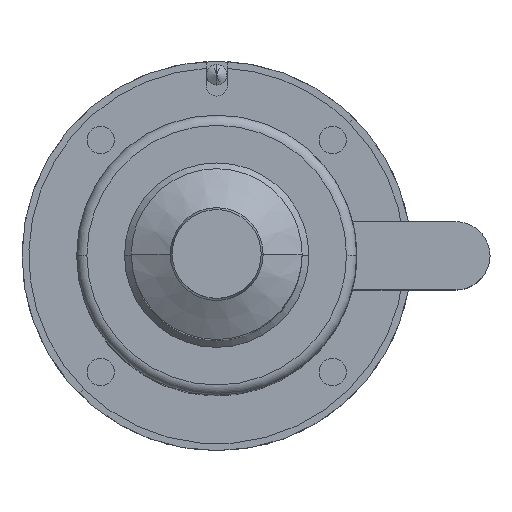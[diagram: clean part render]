
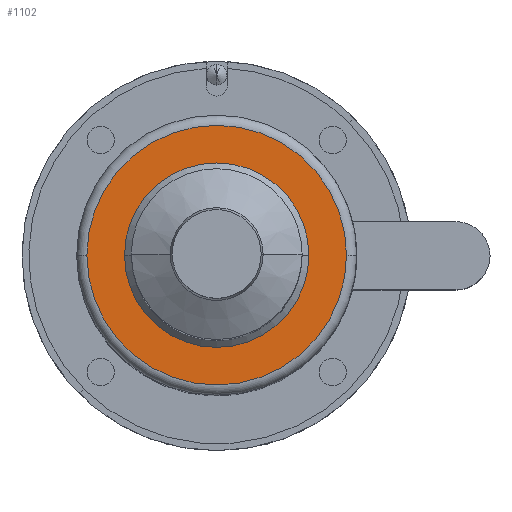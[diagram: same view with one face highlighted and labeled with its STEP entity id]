
A CAD part, top view. The second image highlights one B-rep face of the part: STEP entity #1102.
In plain terms, the highlighted planar face has unit normal (0, 0, 1).
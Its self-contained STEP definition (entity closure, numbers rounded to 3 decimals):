
#1102 = ADVANCED_FACE ( 'NONE', ( #8176, #8177 ), #11303, .F. ) ;
#3702 = DIRECTION ( 'NONE',  ( -1., 0., 0. ) ) ;
#3704 = DIRECTION ( 'NONE',  ( 0., 0., -1. ) ) ;
#3705 = CARTESIAN_POINT ( 'NONE',  ( 0., 0., 151. ) ) ;
#3706 = DIRECTION ( 'NONE',  ( -1., 0., 0. ) ) ;
#3707 = DIRECTION ( 'NONE',  ( 0., 0., -1. ) ) ;
#3708 = CARTESIAN_POINT ( 'NONE',  ( 0., 0., 151. ) ) ;
#3834 = DIRECTION ( 'NONE',  ( -1., 0., 0. ) ) ;
#3835 = DIRECTION ( 'NONE',  ( 0., 0., -1. ) ) ;
#3836 = CARTESIAN_POINT ( 'NONE',  ( 0., 0., 151. ) ) ;
#3839 = DIRECTION ( 'NONE',  ( -1., 0., 0. ) ) ;
#3840 = DIRECTION ( 'NONE',  ( 0., 0., -1. ) ) ;
#3842 = CARTESIAN_POINT ( 'NONE',  ( 0., 0., 151. ) ) ;
#4443 = EDGE_CURVE ( 'NONE', #12117, #12104, #7772, .T. ) ;
#4446 = EDGE_CURVE ( 'NONE', #12110, #12105, #7771, .T. ) ;
#4527 = EDGE_CURVE ( 'NONE', #12105, #12110, #7697, .T. ) ;
#4528 = EDGE_CURVE ( 'NONE', #12104, #12117, #7696, .T. ) ;
#6172 = AXIS2_PLACEMENT_3D ( 'NONE', #11302, #11301, #11300 ) ;
#6368 = AXIS2_PLACEMENT_3D ( 'NONE', #3842, #3840, #3839 ) ;
#6369 = AXIS2_PLACEMENT_3D ( 'NONE', #3836, #3835, #3834 ) ;
#6390 = AXIS2_PLACEMENT_3D ( 'NONE', #3708, #3707, #3706 ) ;
#6391 = AXIS2_PLACEMENT_3D ( 'NONE', #3705, #3704, #3702 ) ;
#7696 = CIRCLE ( 'NONE', #6391, 27. ) ;
#7697 = CIRCLE ( 'NONE', #6390, 38. ) ;
#7771 = CIRCLE ( 'NONE', #6369, 38. ) ;
#7772 = CIRCLE ( 'NONE', #6368, 27. ) ;
#8176 = FACE_OUTER_BOUND ( 'NONE', #8729, .T. ) ;
#8177 = FACE_BOUND ( 'NONE', #8728, .T. ) ;
#8728 = EDGE_LOOP ( 'NONE', ( #16855, #16856 ) ) ;
#8729 = EDGE_LOOP ( 'NONE', ( #16853, #16854 ) ) ;
#11300 = DIRECTION ( 'NONE',  ( -1., 0., 0. ) ) ;
#11301 = DIRECTION ( 'NONE',  ( 0., 0., -1. ) ) ;
#11302 = CARTESIAN_POINT ( 'NONE',  ( 0., 27., 151. ) ) ;
#11303 = PLANE ( 'NONE',  #6172 ) ;
#12104 = VERTEX_POINT ( 'NONE', #13738 ) ;
#12105 = VERTEX_POINT ( 'NONE', #13730 ) ;
#12110 = VERTEX_POINT ( 'NONE', #13699 ) ;
#12117 = VERTEX_POINT ( 'NONE', #14726 ) ;
#13699 = CARTESIAN_POINT ( 'NONE',  ( -38., 0., 151. ) ) ;
#13730 = CARTESIAN_POINT ( 'NONE',  ( 38., 0., 151. ) ) ;
#13738 = CARTESIAN_POINT ( 'NONE',  ( 27., 0., 151. ) ) ;
#14726 = CARTESIAN_POINT ( 'NONE',  ( -27., 0., 151. ) ) ;
#16853 = ORIENTED_EDGE ( 'NONE', *, *, #4446, .F. ) ;
#16854 = ORIENTED_EDGE ( 'NONE', *, *, #4527, .F. ) ;
#16855 = ORIENTED_EDGE ( 'NONE', *, *, #4443, .T. ) ;
#16856 = ORIENTED_EDGE ( 'NONE', *, *, #4528, .T. ) ;
